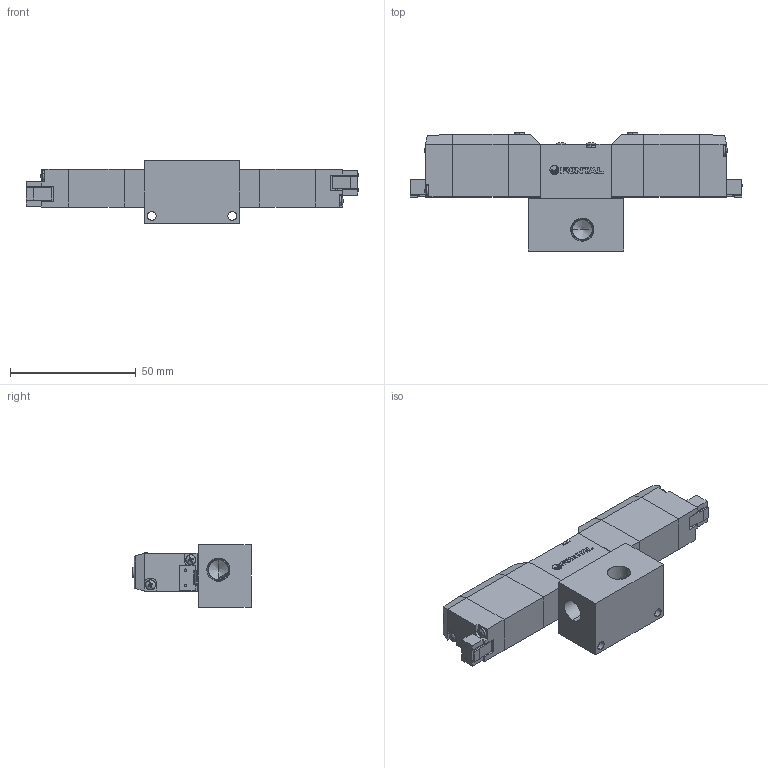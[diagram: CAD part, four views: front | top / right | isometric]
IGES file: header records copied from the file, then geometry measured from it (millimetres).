
Start section: SolidWorks IGES file using analytic representation for surfaces
Global section: file name: D:\Custom\3D繪製\PC\PC5\PCD245#-01-#-SP-#.IGS,1; native system: 5HSolidWorks 2014; preprocessor: SolidWorks 2014; author: Chieh_Lu; date: 150729.231859; units: millimetre
Bounding box: 132 x 47 x 25 mm (x, y, z)
Surface area: 24419 mm2 (no closed solid volume)
Topology: 0 solids, 0 shells, 635 faces, 5674 edges, 5648 vertices
Faces by surface type: bspline 428, revolution 207
